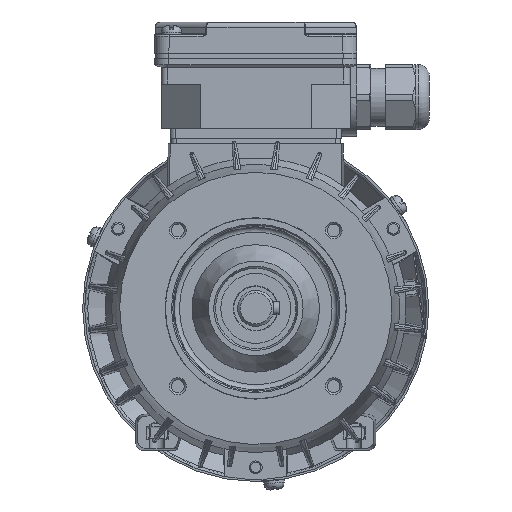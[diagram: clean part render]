
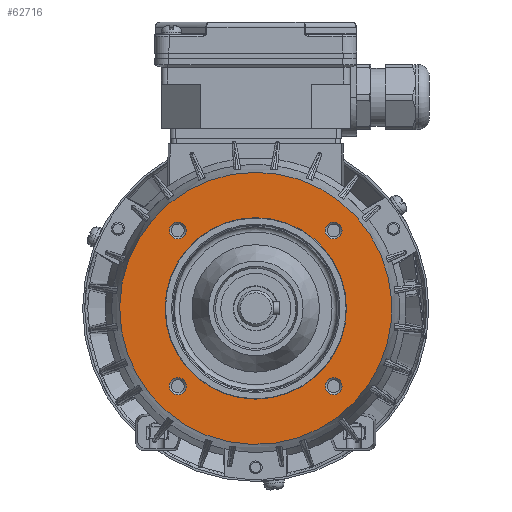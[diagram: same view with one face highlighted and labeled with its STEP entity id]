
A CAD part, front view. The second image highlights one B-rep face of the part: STEP entity #62716.
In plain terms, the highlighted planar face has unit normal (0, -1, 0).
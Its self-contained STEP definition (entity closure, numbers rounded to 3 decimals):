
#19406=ORIENTED_EDGE('',*,*,#27534,.T.);
#19407=ORIENTED_EDGE('',*,*,#27533,.T.);
#19408=ORIENTED_EDGE('',*,*,#27532,.T.);
#19409=ORIENTED_EDGE('',*,*,#27531,.T.);
#19410=ORIENTED_EDGE('',*,*,#27530,.F.);
#19411=ORIENTED_EDGE('',*,*,#27730,.T.);
#27530=EDGE_CURVE('',#32522,#32522,#35164,.T.);
#27531=EDGE_CURVE('',#32523,#32523,#35165,.T.);
#27532=EDGE_CURVE('',#32524,#32524,#35166,.T.);
#27533=EDGE_CURVE('',#32525,#32525,#35167,.T.);
#27534=EDGE_CURVE('',#32526,#32526,#35168,.T.);
#27730=EDGE_CURVE('',#32638,#32638,#35234,.T.);
#32522=VERTEX_POINT('',#100888);
#32523=VERTEX_POINT('',#100891);
#32524=VERTEX_POINT('',#100894);
#32525=VERTEX_POINT('',#100897);
#32526=VERTEX_POINT('',#100900);
#32638=VERTEX_POINT('',#101308);
#35164=CIRCLE('',#66625,35.);
#35165=CIRCLE('',#66627,3.259);
#35166=CIRCLE('',#66629,3.259);
#35167=CIRCLE('',#66631,3.259);
#35168=CIRCLE('',#66633,3.259);
#35234=CIRCLE('',#66799,52.5);
#37931=EDGE_LOOP('',(#19406));
#37932=EDGE_LOOP('',(#19407));
#37933=EDGE_LOOP('',(#19408));
#37934=EDGE_LOOP('',(#19409));
#37935=EDGE_LOOP('',(#19410));
#37936=EDGE_LOOP('',(#19411));
#40922=FACE_BOUND('',#37931,.T.);
#40923=FACE_BOUND('',#37932,.T.);
#40924=FACE_BOUND('',#37933,.T.);
#40925=FACE_BOUND('',#37934,.T.);
#40926=FACE_BOUND('',#37935,.T.);
#40927=FACE_BOUND('',#37936,.T.);
#42301=PLANE('',#66798);
#62716=ADVANCED_FACE('',(#40922,#40923,#40924,#40925,#40926,#40927),#42301,
 .F.);
#66625=AXIS2_PLACEMENT_3D('',#100887,#76335,#76336);
#66627=AXIS2_PLACEMENT_3D('',#100890,#76339,#76340);
#66629=AXIS2_PLACEMENT_3D('',#100893,#76343,#76344);
#66631=AXIS2_PLACEMENT_3D('',#100896,#76347,#76348);
#66633=AXIS2_PLACEMENT_3D('',#100899,#76351,#76352);
#66798=AXIS2_PLACEMENT_3D('',#101306,#76811,#76812);
#66799=AXIS2_PLACEMENT_3D('',#101307,#76813,#76814);
#76335=DIRECTION('',(0.,-1.,0.));
#76336=DIRECTION('',(0.,0.,1.));
#76339=DIRECTION('',(0.,1.,0.));
#76340=DIRECTION('',(1.,0.,0.));
#76343=DIRECTION('',(0.,1.,0.));
#76344=DIRECTION('',(1.,0.,0.));
#76347=DIRECTION('',(0.,1.,0.));
#76348=DIRECTION('',(1.,0.,0.));
#76351=DIRECTION('',(0.,1.,0.));
#76352=DIRECTION('',(1.,0.,0.));
#76811=DIRECTION('',(0.,1.,0.));
#76812=DIRECTION('',(0.,0.,-1.));
#76813=DIRECTION('',(0.,-1.,0.));
#76814=DIRECTION('',(0.,0.,1.));
#100887=CARTESIAN_POINT('',(0.,-90.,0.));
#100888=CARTESIAN_POINT('',(0.,-90.,35.));
#100890=CARTESIAN_POINT('',(30.052,-90.,30.052));
#100891=CARTESIAN_POINT('',(33.311,-90.,30.052));
#100893=CARTESIAN_POINT('',(30.052,-90.,-30.052));
#100894=CARTESIAN_POINT('',(33.311,-90.,-30.052));
#100896=CARTESIAN_POINT('',(-30.052,-90.,-30.052));
#100897=CARTESIAN_POINT('',(-26.794,-90.,-30.052));
#100899=CARTESIAN_POINT('',(-30.052,-90.,30.052));
#100900=CARTESIAN_POINT('',(-26.794,-90.,30.052));
#101306=CARTESIAN_POINT('',(0.,-90.,52.5));
#101307=CARTESIAN_POINT('',(0.,-90.,0.));
#101308=CARTESIAN_POINT('',(0.,-90.,52.5));
